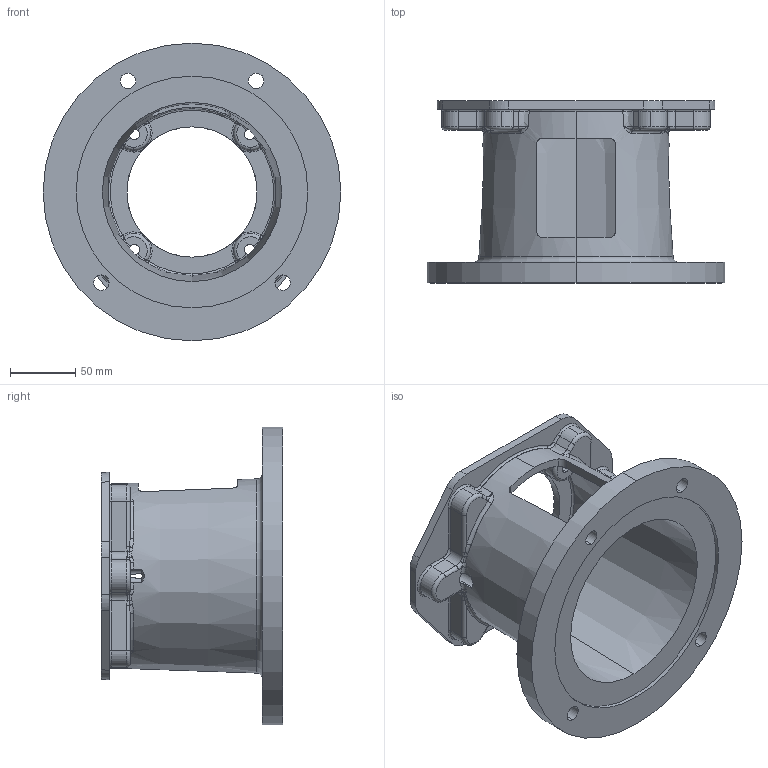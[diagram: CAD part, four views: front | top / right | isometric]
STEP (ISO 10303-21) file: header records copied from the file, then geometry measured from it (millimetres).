
FILE_DESCRIPTION (( 'STEP AP203' ), '1' );
FILE_NAME ('E70055100M.STEP', '2014-11-04T13:07:06', ( '' ), ( '' ), 'SwSTEP 2.0', 'SolidWorks 2014', '' );
FILE_SCHEMA (( 'CONFIG_CONTROL_DESIGN' ));
Length unit declared in the file: inch
Products named in the file (1): E70055100M
Bounding box: 228.6 x 139.7 x 228.6 mm (x, y, z)
Volume: 881498.5 mm3; surface area: 213501.7 mm2
Topology: 1 solids, 1 shells, 294 faces, 778 edges, 455 vertices
Faces by surface type: torus 79, cylinder 74, bspline 64, plane 43, cone 18, sphere 16
Entity records: 11865 total; most frequent: CARTESIAN_POINT 4942, ORIENTED_EDGE 1508, DIRECTION 1438, EDGE_CURVE 754, AXIS2_PLACEMENT_3D 645, VERTEX_POINT 455, CIRCLE 414, EDGE_LOOP 315
